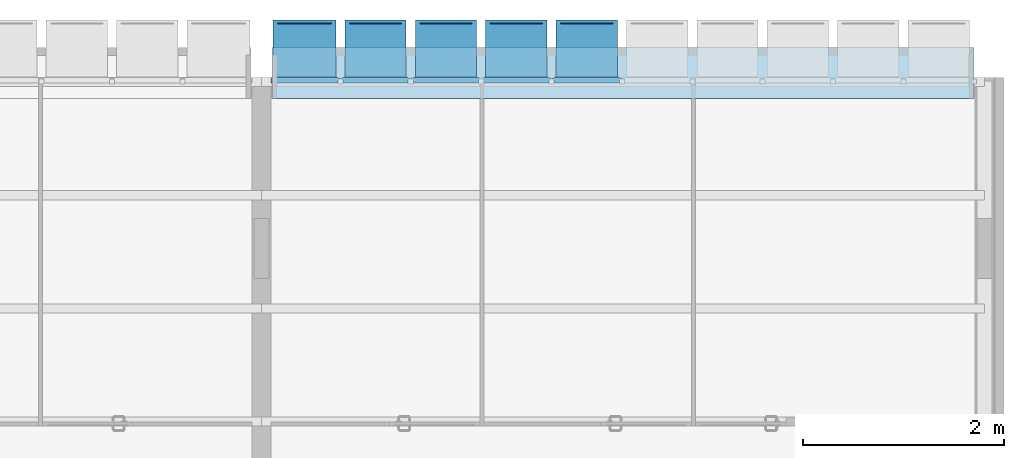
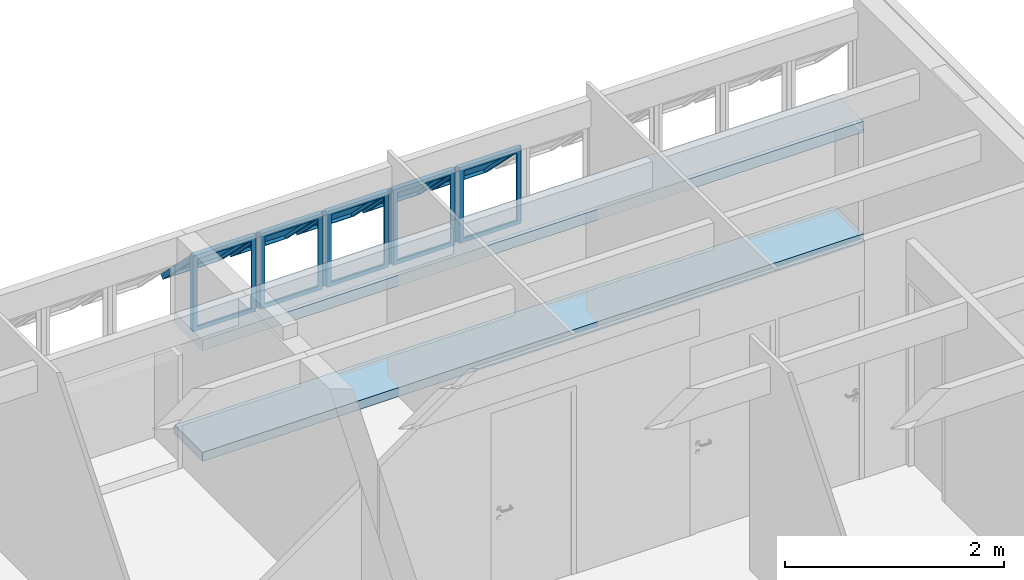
# One storey, part 16 of 41: 5 plates, 2 slabs, 1 element without a shape of its own.
"""IFC4 building model written with IfcOpenShell, lengths in millimetres."""

from ifc_helpers import new_model, entity, si_unit, converted_unit, derived_unit, direction, frame, origin_with_axes, place, context, subcontext, project, spatial, line, indexed_curve, outline, extrude, polygons, source, transform, mapped, material, layer, layer_set, layer_usage, constituent, constituent_set, type_object, element, aggregate, save


model = new_model("IFC4")

# Units and contexts
model_context = context("Model", 3, precision=0.01, world=origin_with_axes(), true_north=direction((0.0, 1.0)))
body_context = subcontext(model_context, "Body", "Model", "MODEL_VIEW")
ifc_project = project(units=[si_unit("LENGTHUNIT", "METRE", prefix="MILLI"), si_unit("AREAUNIT", "SQUARE_METRE"), si_unit("VOLUMEUNIT", "CUBIC_METRE"), converted_unit("PLANEANGLEUNIT", "DEGREE", entity("IfcPlaneAngleMeasure", 0.0174532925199), si_unit("PLANEANGLEUNIT", "RADIAN"), dimensions=[0, 0, 0, 0, 0, 0, 0]), converted_unit("TIMEUNIT", "Year", entity("IfcTimeMeasure", 31556926.0), si_unit("TIMEUNIT", "SECOND"), dimensions=[0, 0, 1, 0, 0, 0, 0]), si_unit("MASSUNIT", "GRAM", prefix="KILO"), si_unit("THERMODYNAMICTEMPERATUREUNIT", "DEGREE_CELSIUS"), si_unit("LUMINOUSINTENSITYUNIT", "LUMEN"), si_unit("ENERGYUNIT", "JOULE", prefix="MEGA"), derived_unit("THERMALCONDUCTANCEUNIT", [(si_unit("POWERUNIT", "WATT"), 1), (si_unit("LENGTHUNIT", "METRE"), -1), (si_unit("THERMODYNAMICTEMPERATUREUNIT", "KELVIN"), -1)]), derived_unit("SPECIFICHEATCAPACITYUNIT", [(si_unit("ENERGYUNIT", "JOULE"), 1), (si_unit("MASSUNIT", "GRAM", prefix="KILO"), -1), (si_unit("THERMODYNAMICTEMPERATUREUNIT", "KELVIN"), -1)]), derived_unit("MASSDENSITYUNIT", [(si_unit("MASSUNIT", "GRAM", prefix="KILO"), 1), (si_unit("VOLUMEUNIT", "CUBIC_METRE"), -1)])], contexts=[model_context])

# Site, building, storey
site_placement = place(None, origin_with_axes())
site = spatial("IfcSite", under=ifc_project, at=site_placement, Name="Local", CompositionType="ELEMENT")
building_placement = place(site_placement, origin_with_axes())
building = spatial("IfcBuilding", under=site, at=building_placement, Name="Construção", CompositionType="ELEMENT")
storey_placement = place(building_placement, frame((0.0, 0.0, 2650.0), z_axis=(0.0, 0.0, 1.0), x_axis=(1.0, 0.0, 0.0)))
storey = spatial("IfcBuildingStorey", under=building, at=storey_placement, Name="Segundo Pavimento", CompositionType="ELEMENT", Elevation=2650.0)

# Slab
ifc_material_1 = material(Name="Concreto Armado Moldado in Loco - Estrutural")
ifc_layer_1 = layer(ifc_material_1, 120.0, ventilated="UNKNOWN", Name="Concreto Armado Moldado in Loco - Estrutural")
ifc_layer_set_1 = layer_set([ifc_layer_1], Name="Concreto Armado Moldado in Loco - Estrutural 120")
ifc_layer_usage_1 = layer_usage(ifc_layer_set_1, "AXIS3", "NEGATIVE", 120.0)
slab_type_1 = type_object("IfcSlabType", Name="Concreto Armado Moldado in Loco - Estrutural 120", PredefinedType="FLOOR")
slab_1_placement = place(storey_placement, frame((14470.0, 26160.0, 1355.0), z_axis=(0.0, 0.0, 1.0), x_axis=(1.0, 0.0, 0.0)))
element("IfcSlab", 1, at=slab_1_placement, inside=storey, type_object=slab_type_1, material=ifc_layer_usage_1, Name="APTO8-LAJE-002", PredefinedType="FLOOR", context=body_context, shape_type="SweptSolid", body=[
    extrude(outline(indexed_curve([(0.0, 0.0), (-6980.0, 0.0), (-6980.0, -510.0), (0.0, -510.0)], segments=[line(1, 2, 3, 4, 1)])), frame((0.0, 0.0, -120.0), z_axis=(0.0, 0.0, 1.0), x_axis=(1.0, 0.0, 0.0)), (0.0, 0.0, 1.0), 120.0),
])

# Window, plates
window_type = type_object("IfcWindowType", Name="Tipo de Parede Cortina", PartitioningType="NOTDEFINED", PredefinedType="NOTDEFINED")
window_placement = place(storey_placement, frame((8520.0, 25844.9790225, 1355.02054151), z_axis=(0.0, 0.0, 1.0), x_axis=(1.0, 0.0, 0.0)))
window = element("IfcWindow", 2, at=window_placement, inside=storey, type_object=window_type, Name="APTO8-JANELA-001", PredefinedType="NOTDEFINED")
ifc_material_2 = material(Name="Alumínio")
ifc_constituent_1 = constituent(ifc_material_2, Name="Alumínio")
ifc_material_3 = material(Name="Vidro")
ifc_constituent_2 = constituent(ifc_material_3, Name="Vidro")
ifc_constituent_set_1 = constituent_set(constituents=[ifc_constituent_1, ifc_constituent_2])
plate_type_1 = type_object("IfcPlateType", Name="Painel Principal 690 x 845 x 20", PredefinedType="CURTAIN_PANEL")
shared_shape_1 = source(origin_with_axes(), body_context, "Body", "Tessellation", [
    polygons([(25.0000036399, 0.0, -40.0), (674.999997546, 0.0, -40.0), (674.999997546, 0.0, -35.0), (25.0000036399, 0.0, -35.0), (70.0000036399, 45.0, -40.0), (629.999997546, 45.0, -40.0), (629.999997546, 45.0, -35.0), (70.0000036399, 45.0, -35.0)], [[[1, 2, 3, 4]], [[1, 5, 6, 2]], [[2, 6, 7, 3]], [[4, 3, 7, 8]], [[5, 1, 4, 8]], [[6, 5, 8, 7]]], closed=True),
    polygons([(674.999997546, 0.0, -40.0), (674.999997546, 844.999891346, -40.0), (674.999997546, 844.999891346, -35.0), (674.999997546, 0.0, -35.0), (629.999997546, 45.0, -40.0), (629.999997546, 799.999891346, -40.0), (629.999997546, 799.999891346, -35.0), (629.999997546, 45.0, -35.0)], [[[1, 2, 3, 4]], [[1, 5, 6, 2]], [[2, 6, 7, 3]], [[4, 3, 7, 8]], [[5, 1, 4, 8]], [[6, 5, 8, 7]]], closed=True),
    polygons([(25.0000036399, 844.999891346, -40.0), (70.0000036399, 799.999891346, -40.0), (70.0000036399, 799.999891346, -35.0), (25.0000036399, 844.999891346, -35.0), (674.999997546, 844.999891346, -40.0), (629.999997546, 799.999891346, -40.0), (629.999997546, 799.999891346, -35.0), (674.999997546, 844.999891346, -35.0)], [[[1, 2, 3, 4]], [[1, 5, 6, 2]], [[2, 6, 7, 3]], [[4, 3, 7, 8]], [[5, 1, 4, 8]], [[6, 5, 8, 7]]], closed=True),
    polygons([(25.0000036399, 0.0, -40.0), (70.0000036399, 45.0, -40.0), (70.0000036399, 45.0, -35.0), (25.0000036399, 0.0, -35.0), (25.0000036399, 844.999891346, -40.0), (70.0000036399, 799.999891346, -40.0), (70.0000036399, 799.999891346, -35.0), (25.0000036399, 844.999891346, -35.0)], [[[1, 2, 3, 4]], [[1, 5, 6, 2]], [[2, 6, 7, 3]], [[4, 3, 7, 8]], [[5, 1, 4, 8]], [[6, 5, 8, 7]]], closed=True),
    polygons([(25.0000036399, 0.0, -35.0), (674.999997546, 0.0, -35.0), (674.999997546, 0.0, 15.0), (25.0000036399, 0.0, 15.0), (45.0000036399, 20.0, -35.0), (654.999997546, 20.0, -35.0), (654.999997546, 20.0, 15.0), (45.0000036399, 20.0, 15.0)], [[[1, 2, 3, 4]], [[1, 5, 6, 2]], [[2, 6, 7, 3]], [[4, 3, 7, 8]], [[5, 1, 4, 8]], [[6, 5, 8, 7]]], closed=True),
    polygons([(674.999997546, 0.0, -35.0), (674.999997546, 844.999891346, -35.0), (674.999997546, 844.999891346, 15.0), (674.999997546, 0.0, 15.0), (654.999997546, 20.0, -35.0), (654.999997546, 824.999891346, -35.0), (654.999997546, 824.999891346, 15.0), (654.999997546, 20.0, 15.0)], [[[1, 2, 3, 4]], [[1, 5, 6, 2]], [[2, 6, 7, 3]], [[4, 3, 7, 8]], [[5, 1, 4, 8]], [[6, 5, 8, 7]]], closed=True),
    polygons([(25.0000036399, 844.999891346, -35.0), (45.0000036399, 824.999891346, -35.0), (45.0000036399, 824.999891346, 15.0), (25.0000036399, 844.999891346, 15.0), (674.999997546, 844.999891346, -35.0), (654.999997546, 824.999891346, -35.0), (654.999997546, 824.999891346, 15.0), (674.999997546, 844.999891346, 15.0)], [[[1, 2, 3, 4]], [[1, 5, 6, 2]], [[2, 6, 7, 3]], [[4, 3, 7, 8]], [[5, 1, 4, 8]], [[6, 5, 8, 7]]], closed=True),
    polygons([(25.0000036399, 0.0, -35.0), (45.0000036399, 20.0, -35.0), (45.0000036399, 20.0, 15.0), (25.0000036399, 0.0, 15.0), (25.0000036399, 844.999891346, -35.0), (45.0000036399, 824.999891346, -35.0), (45.0000036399, 824.999891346, 15.0), (25.0000036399, 844.999891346, 15.0)], [[[1, 2, 3, 4]], [[1, 5, 6, 2]], [[2, 6, 7, 3]], [[4, 3, 7, 8]], [[5, 1, 4, 8]], [[6, 5, 8, 7]]], closed=True),
    polygons([(694.999995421, 0.0, -10.0), (694.999995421, 844.999891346, -10.0), (694.999995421, 844.999891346, 10.0), (694.999995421, 0.0, 10.0), (674.999997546, 0.0, -10.0), (674.999997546, 844.999891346, -10.0), (674.999997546, 844.999891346, 10.0), (674.999997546, 0.0, 10.0)], [[[1, 2, 3, 4]], [[1, 5, 6, 2]], [[2, 6, 7, 3]], [[4, 3, 7, 8]], [[5, 1, 4, 8]], [[6, 5, 8, 7]]], closed=True),
    polygons([(5.00000576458, 844.999891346, -10.0), (5.00000576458, 0.0, -10.0), (5.00000576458, 0.0, 10.0), (5.00000576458, 844.999891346, 10.0), (25.0000036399, 844.999891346, -10.0), (25.0000036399, 0.0, -10.0), (25.0000036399, 0.0, 10.0), (25.0000036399, 844.999891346, 10.0)], [[[1, 2, 3, 4]], [[1, 5, 6, 2]], [[2, 6, 7, 3]], [[4, 3, 7, 8]], [[5, 1, 4, 8]], [[6, 5, 8, 7]]], closed=True),
    polygons([(90.0000036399, 252.243475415, 517.045737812), (90.0000036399, 757.824747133, 11.4644660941), (90.0000036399, 796.715620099, 50.3553390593), (90.0000036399, 291.13434838, 555.936610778), (45.0000036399, 220.423670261, 548.865542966), (45.0000036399, 789.644552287, -20.3553390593), (45.0000036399, 828.535425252, 18.5355339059), (45.0000036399, 259.314543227, 587.756415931)], [[[1, 2, 3, 4]], [[1, 5, 6, 2]], [[2, 6, 7, 3]], [[4, 3, 7, 8]], [[5, 1, 4, 8]], [[6, 5, 8, 7]]], closed=True),
    polygons([(654.999997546, 220.423670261, 548.865542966), (654.999997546, 789.644552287, -20.3553390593), (654.999997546, 828.535425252, 18.5355339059), (654.999997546, 259.314543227, 587.756415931), (609.999997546, 252.243475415, 517.045737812), (609.999997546, 757.824747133, 11.4644660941), (609.999997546, 796.715620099, 50.3553390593), (609.999997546, 291.13434838, 555.936610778)], [[[1, 2, 3, 4]], [[1, 5, 6, 2]], [[2, 6, 7, 3]], [[4, 3, 7, 8]], [[5, 1, 4, 8]], [[6, 5, 8, 7]]], closed=True),
    polygons([(654.999997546, 220.423670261, 548.865542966), (609.999997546, 252.243475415, 517.045737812), (609.999997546, 291.13434838, 555.936610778), (654.999997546, 259.314543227, 587.756415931), (45.0000036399, 220.423670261, 548.865542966), (90.0000036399, 252.243475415, 517.045737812), (90.0000036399, 291.13434838, 555.936610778), (45.0000036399, 259.314543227, 587.756415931)], [[[1, 2, 3, 4]], [[1, 5, 6, 2]], [[2, 6, 7, 3]], [[4, 3, 7, 8]], [[5, 1, 4, 8]], [[6, 5, 8, 7]]], closed=True),
    polygons([(45.0000036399, 789.644552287, -20.3553390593), (90.0000036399, 757.824747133, 11.4644660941), (90.0000036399, 796.715620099, 50.3553390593), (45.0000036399, 828.535425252, 18.5355339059), (654.999997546, 789.644552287, -20.3553390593), (609.999997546, 757.824747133, 11.4644660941), (609.999997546, 796.715620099, 50.3553390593), (654.999997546, 828.535425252, 18.5355339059)], [[[1, 2, 3, 4]], [[1, 5, 6, 2]], [[2, 6, 7, 3]], [[4, 3, 7, 8]], [[5, 1, 4, 8]], [[6, 5, 8, 7]]], closed=True),
    polygons([(90.0000036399, 272.749572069, 537.551834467), (609.999997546, 272.749572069, 537.551834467), (609.999997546, 284.063280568, 548.865542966), (90.0000036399, 284.063280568, 548.865542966), (90.0000036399, 778.330843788, 31.9705627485), (609.999997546, 778.330843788, 31.9705627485), (609.999997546, 789.644552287, 43.2842712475), (90.0000036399, 789.644552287, 43.2842712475)], [[[1, 2, 3, 4]], [[1, 5, 6, 2]], [[2, 6, 7, 3]], [[4, 3, 7, 8]], [[5, 1, 4, 8]], [[6, 5, 8, 7]]], closed=True),
])
plate_1_placement = place(window_placement, frame((0.0, 0.0, 422.499945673), z_axis=(0.0, 0.0, 1.0), x_axis=(1.0, 0.0, 0.0)))
plate_1 = element("IfcPlate", 3, at=plate_1_placement, type_object=plate_type_1, material=ifc_constituent_set_1, Name="APTO8-Painel-Prin-030", PredefinedType="CURTAIN_PANEL", context=body_context, shape_type="MappedRepresentation", body=[
    mapped(shared_shape_1, transform((350.0, 0.0, -422.499945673), x_axis=(-1.0, 0.0, 0.0), y_axis=(0.0, 0.0, 1.0), z_axis=(0.0, 1.0, 0.0))),
])
ifc_constituent_3 = constituent(ifc_material_2, Name="Alumínio")
ifc_constituent_4 = constituent(ifc_material_3, Name="Vidro")
ifc_constituent_set_2 = constituent_set(constituents=[ifc_constituent_3, ifc_constituent_4])
plate_2_placement = place(window_placement, frame((700.0, 0.0, 422.499945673), z_axis=(0.0, 0.0, 1.0), x_axis=(1.0, 0.0, 0.0)))
plate_2 = element("IfcPlate", 4, at=plate_2_placement, type_object=plate_type_1, material=ifc_constituent_set_2, Name="APTO8-Painel-Prin-020", PredefinedType="CURTAIN_PANEL", context=body_context, shape_type="MappedRepresentation", body=[
    mapped(shared_shape_1, transform((350.0, 0.0, -422.499945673), x_axis=(-1.0, 0.0, 0.0), y_axis=(0.0, 0.0, 1.0), z_axis=(0.0, 1.0, 0.0))),
])
ifc_constituent_5 = constituent(ifc_material_2, Name="Alumínio")
ifc_constituent_6 = constituent(ifc_material_3, Name="Vidro")
ifc_constituent_set_3 = constituent_set(constituents=[ifc_constituent_5, ifc_constituent_6])
plate_3_placement = place(window_placement, frame((1400.0, 0.0, 422.499945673), z_axis=(0.0, 0.0, 1.0), x_axis=(1.0, 0.0, 0.0)))
plate_3 = element("IfcPlate", 5, at=plate_3_placement, type_object=plate_type_1, material=ifc_constituent_set_3, Name="APTO8-Painel-Prin-029", PredefinedType="CURTAIN_PANEL", context=body_context, shape_type="MappedRepresentation", body=[
    mapped(shared_shape_1, transform((350.0, 0.0, -422.499945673), x_axis=(-1.0, 0.0, 0.0), y_axis=(0.0, 0.0, 1.0), z_axis=(0.0, 1.0, 0.0))),
])
ifc_constituent_7 = constituent(ifc_material_2, Name="Alumínio")
ifc_constituent_8 = constituent(ifc_material_3, Name="Vidro")
ifc_constituent_set_4 = constituent_set(constituents=[ifc_constituent_7, ifc_constituent_8])
plate_type_2 = type_object("IfcPlateType", Name="Painel Principal 685 x 845 x 20", PredefinedType="CURTAIN_PANEL")
shared_shape_2 = source(origin_with_axes(), body_context, "Body", "Tessellation", [
    polygons([(25.0000046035, 0.0, -40.0), (690.000079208, 0.0, -40.0), (690.000079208, 0.0, -35.0), (25.0000046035, 0.0, -35.0), (70.0000046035, 45.0, -40.0), (645.000079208, 45.0, -40.0), (645.000079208, 45.0, -35.0), (70.0000046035, 45.0, -35.0)], [[[1, 2, 3, 4]], [[1, 5, 6, 2]], [[2, 6, 7, 3]], [[4, 3, 7, 8]], [[5, 1, 4, 8]], [[6, 5, 8, 7]]], closed=True),
    polygons([(690.000079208, 0.0, -40.0), (690.000079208, 844.999923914, -40.0), (690.000079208, 844.999923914, -35.0), (690.000079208, 0.0, -35.0), (645.000079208, 45.0, -40.0), (645.000079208, 799.999923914, -40.0), (645.000079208, 799.999923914, -35.0), (645.000079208, 45.0, -35.0)], [[[1, 2, 3, 4]], [[1, 5, 6, 2]], [[2, 6, 7, 3]], [[4, 3, 7, 8]], [[5, 1, 4, 8]], [[6, 5, 8, 7]]], closed=True),
    polygons([(25.0000046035, 844.999923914, -40.0), (70.0000046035, 799.999923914, -40.0), (70.0000046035, 799.999923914, -35.0), (25.0000046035, 844.999923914, -35.0), (690.000079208, 844.999923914, -40.0), (645.000079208, 799.999923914, -40.0), (645.000079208, 799.999923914, -35.0), (690.000079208, 844.999923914, -35.0)], [[[1, 2, 3, 4]], [[1, 5, 6, 2]], [[2, 6, 7, 3]], [[4, 3, 7, 8]], [[5, 1, 4, 8]], [[6, 5, 8, 7]]], closed=True),
    polygons([(25.0000046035, 0.0, -40.0), (70.0000046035, 45.0, -40.0), (70.0000046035, 45.0, -35.0), (25.0000046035, 0.0, -35.0), (25.0000046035, 844.999923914, -40.0), (70.0000046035, 799.999923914, -40.0), (70.0000046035, 799.999923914, -35.0), (25.0000046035, 844.999923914, -35.0)], [[[1, 2, 3, 4]], [[1, 5, 6, 2]], [[2, 6, 7, 3]], [[4, 3, 7, 8]], [[5, 1, 4, 8]], [[6, 5, 8, 7]]], closed=True),
    polygons([(25.0000046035, 0.0, -35.0), (690.000079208, 0.0, -35.0), (690.000079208, 0.0, 15.0), (25.0000046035, 0.0, 15.0), (45.0000046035, 20.0, -35.0), (670.000079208, 20.0, -35.0), (670.000079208, 20.0, 15.0), (45.0000046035, 20.0, 15.0)], [[[1, 2, 3, 4]], [[1, 5, 6, 2]], [[2, 6, 7, 3]], [[4, 3, 7, 8]], [[5, 1, 4, 8]], [[6, 5, 8, 7]]], closed=True),
    polygons([(690.000079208, 0.0, -35.0), (690.000079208, 844.999923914, -35.0), (690.000079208, 844.999923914, 15.0), (690.000079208, 0.0, 15.0), (670.000079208, 20.0, -35.0), (670.000079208, 824.999923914, -35.0), (670.000079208, 824.999923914, 15.0), (670.000079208, 20.0, 15.0)], [[[1, 2, 3, 4]], [[1, 5, 6, 2]], [[2, 6, 7, 3]], [[4, 3, 7, 8]], [[5, 1, 4, 8]], [[6, 5, 8, 7]]], closed=True),
    polygons([(25.0000046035, 844.999923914, -35.0), (45.0000046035, 824.999923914, -35.0), (45.0000046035, 824.999923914, 15.0), (25.0000046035, 844.999923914, 15.0), (690.000079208, 844.999923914, -35.0), (670.000079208, 824.999923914, -35.0), (670.000079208, 824.999923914, 15.0), (690.000079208, 844.999923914, 15.0)], [[[1, 2, 3, 4]], [[1, 5, 6, 2]], [[2, 6, 7, 3]], [[4, 3, 7, 8]], [[5, 1, 4, 8]], [[6, 5, 8, 7]]], closed=True),
    polygons([(25.0000046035, 0.0, -35.0), (45.0000046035, 20.0, -35.0), (45.0000046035, 20.0, 15.0), (25.0000046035, 0.0, 15.0), (25.0000046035, 844.999923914, -35.0), (45.0000046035, 824.999923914, -35.0), (45.0000046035, 824.999923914, 15.0), (25.0000046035, 844.999923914, 15.0)], [[[1, 2, 3, 4]], [[1, 5, 6, 2]], [[2, 6, 7, 3]], [[4, 3, 7, 8]], [[5, 1, 4, 8]], [[6, 5, 8, 7]]], closed=True),
    polygons([(5.00000595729, 844.999923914, -10.0), (5.00000595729, 0.0, -10.0), (5.00000595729, 0.0, 10.0), (5.00000595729, 844.999923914, 10.0), (25.0000046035, 844.999923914, -10.0), (25.0000046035, 0.0, -10.0), (25.0000046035, 0.0, 10.0), (25.0000046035, 844.999923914, 10.0)], [[[1, 2, 3, 4]], [[1, 5, 6, 2]], [[2, 6, 7, 3]], [[4, 3, 7, 8]], [[5, 1, 4, 8]], [[6, 5, 8, 7]]], closed=True),
    polygons([(90.0000046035, 252.243484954, 517.045760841), (90.0000046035, 757.824779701, 11.4644660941), (90.0000046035, 796.715652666, 50.3553390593), (90.0000046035, 291.134357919, 555.936633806), (45.0000046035, 220.4236798, 548.865565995), (45.0000046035, 789.644584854, -20.3553390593), (45.0000046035, 828.535457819, 18.5355339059), (45.0000046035, 259.314552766, 587.75643896)], [[[1, 2, 3, 4]], [[1, 5, 6, 2]], [[2, 6, 7, 3]], [[4, 3, 7, 8]], [[5, 1, 4, 8]], [[6, 5, 8, 7]]], closed=True),
    polygons([(670.000079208, 220.4236798, 548.865565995), (670.000079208, 789.644584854, -20.3553390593), (670.000079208, 828.535457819, 18.5355339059), (670.000079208, 259.314552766, 587.75643896), (625.000079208, 252.243484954, 517.045760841), (625.000079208, 757.824779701, 11.4644660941), (625.000079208, 796.715652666, 50.3553390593), (625.000079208, 291.134357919, 555.936633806)], [[[1, 2, 3, 4]], [[1, 5, 6, 2]], [[2, 6, 7, 3]], [[4, 3, 7, 8]], [[5, 1, 4, 8]], [[6, 5, 8, 7]]], closed=True),
    polygons([(670.000079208, 220.4236798, 548.865565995), (625.000079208, 252.243484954, 517.045760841), (625.000079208, 291.134357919, 555.936633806), (670.000079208, 259.314552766, 587.75643896), (45.0000046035, 220.4236798, 548.865565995), (90.0000046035, 252.243484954, 517.045760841), (90.0000046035, 291.134357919, 555.936633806), (45.0000046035, 259.314552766, 587.75643896)], [[[1, 2, 3, 4]], [[1, 5, 6, 2]], [[2, 6, 7, 3]], [[4, 3, 7, 8]], [[5, 1, 4, 8]], [[6, 5, 8, 7]]], closed=True),
    polygons([(45.0000046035, 789.644584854, -20.3553390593), (90.0000046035, 757.824779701, 11.4644660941), (90.0000046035, 796.715652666, 50.3553390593), (45.0000046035, 828.535457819, 18.5355339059), (670.000079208, 789.644584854, -20.3553390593), (625.000079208, 757.824779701, 11.4644660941), (625.000079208, 796.715652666, 50.3553390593), (670.000079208, 828.535457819, 18.5355339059)], [[[1, 2, 3, 4]], [[1, 5, 6, 2]], [[2, 6, 7, 3]], [[4, 3, 7, 8]], [[5, 1, 4, 8]], [[6, 5, 8, 7]]], closed=True),
    polygons([(90.0000046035, 272.749581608, 537.551857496), (625.000079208, 272.749581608, 537.551857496), (625.000079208, 284.063290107, 548.865565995), (90.0000046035, 284.063290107, 548.865565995), (90.0000046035, 778.330876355, 31.9705627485), (625.000079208, 778.330876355, 31.9705627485), (625.000079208, 789.644584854, 43.2842712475), (90.0000046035, 789.644584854, 43.2842712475)], [[[1, 2, 3, 4]], [[1, 5, 6, 2]], [[2, 6, 7, 3]], [[4, 3, 7, 8]], [[5, 1, 4, 8]], [[6, 5, 8, 7]]], closed=True),
])
plate_4_placement = place(window_placement, frame((-695.000037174, 0.0, 422.499953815), z_axis=(0.0, 0.0, 1.0), x_axis=(1.0, 0.0, 0.0)))
plate_4 = element("IfcPlate", 6, at=plate_4_placement, type_object=plate_type_2, material=ifc_constituent_set_4, Name="APTO8-Painel-Prin-031", PredefinedType="CURTAIN_PANEL", context=body_context, shape_type="MappedRepresentation", body=[
    mapped(shared_shape_2, transform((345.000037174, 0.0, -422.499953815), x_axis=(-1.0, 0.0, 0.0), y_axis=(0.0, 0.0, 1.0), z_axis=(0.0, 1.0, 0.0))),
])
ifc_constituent_9 = constituent(ifc_material_2, Name="Alumínio")
ifc_constituent_10 = constituent(ifc_material_3, Name="Vidro")
ifc_constituent_set_5 = constituent_set(constituents=[ifc_constituent_9, ifc_constituent_10])
shared_shape_3 = source(origin_with_axes(), body_context, "Body", "Tessellation", [
    polygons([(25.0000036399, 0.0, -40.0), (674.999997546, 0.0, -40.0), (674.999997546, 0.0, -35.0), (25.0000036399, 0.0, -35.0), (70.0000036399, 45.0, -40.0), (629.999997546, 45.0, -40.0), (629.999997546, 45.0, -35.0), (70.0000036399, 45.0, -35.0)], [[[1, 2, 3, 4]], [[1, 5, 6, 2]], [[2, 6, 7, 3]], [[4, 3, 7, 8]], [[5, 1, 4, 8]], [[6, 5, 8, 7]]], closed=True),
    polygons([(674.999997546, 0.0, -40.0), (674.999997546, 844.999891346, -40.0), (674.999997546, 844.999891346, -35.0), (674.999997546, 0.0, -35.0), (629.999997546, 45.0, -40.0), (629.999997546, 799.999891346, -40.0), (629.999997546, 799.999891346, -35.0), (629.999997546, 45.0, -35.0)], [[[1, 2, 3, 4]], [[1, 5, 6, 2]], [[2, 6, 7, 3]], [[4, 3, 7, 8]], [[5, 1, 4, 8]], [[6, 5, 8, 7]]], closed=True),
    polygons([(25.0000036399, 844.999891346, -40.0), (70.0000036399, 799.999891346, -40.0), (70.0000036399, 799.999891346, -35.0), (25.0000036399, 844.999891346, -35.0), (674.999997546, 844.999891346, -40.0), (629.999997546, 799.999891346, -40.0), (629.999997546, 799.999891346, -35.0), (674.999997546, 844.999891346, -35.0)], [[[1, 2, 3, 4]], [[1, 5, 6, 2]], [[2, 6, 7, 3]], [[4, 3, 7, 8]], [[5, 1, 4, 8]], [[6, 5, 8, 7]]], closed=True),
    polygons([(25.0000036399, 0.0, -40.0), (70.0000036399, 45.0, -40.0), (70.0000036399, 45.0, -35.0), (25.0000036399, 0.0, -35.0), (25.0000036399, 844.999891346, -40.0), (70.0000036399, 799.999891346, -40.0), (70.0000036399, 799.999891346, -35.0), (25.0000036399, 844.999891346, -35.0)], [[[1, 2, 3, 4]], [[1, 5, 6, 2]], [[2, 6, 7, 3]], [[4, 3, 7, 8]], [[5, 1, 4, 8]], [[6, 5, 8, 7]]], closed=True),
    polygons([(25.0000036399, 0.0, -35.0), (674.999997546, 0.0, -35.0), (674.999997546, 0.0, 15.0), (25.0000036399, 0.0, 15.0), (45.0000036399, 20.0, -35.0), (654.999997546, 20.0, -35.0), (654.999997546, 20.0, 15.0), (45.0000036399, 20.0, 15.0)], [[[1, 2, 3, 4]], [[1, 5, 6, 2]], [[2, 6, 7, 3]], [[4, 3, 7, 8]], [[5, 1, 4, 8]], [[6, 5, 8, 7]]], closed=True),
    polygons([(674.999997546, 0.0, -35.0), (674.999997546, 844.999891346, -35.0), (674.999997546, 844.999891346, 15.0), (674.999997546, 0.0, 15.0), (654.999997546, 20.0, -35.0), (654.999997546, 824.999891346, -35.0), (654.999997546, 824.999891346, 15.0), (654.999997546, 20.0, 15.0)], [[[1, 2, 3, 4]], [[1, 5, 6, 2]], [[2, 6, 7, 3]], [[4, 3, 7, 8]], [[5, 1, 4, 8]], [[6, 5, 8, 7]]], closed=True),
    polygons([(25.0000036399, 844.999891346, -35.0), (45.0000036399, 824.999891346, -35.0), (45.0000036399, 824.999891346, 15.0), (25.0000036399, 844.999891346, 15.0), (674.999997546, 844.999891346, -35.0), (654.999997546, 824.999891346, -35.0), (654.999997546, 824.999891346, 15.0), (674.999997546, 844.999891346, 15.0)], [[[1, 2, 3, 4]], [[1, 5, 6, 2]], [[2, 6, 7, 3]], [[4, 3, 7, 8]], [[5, 1, 4, 8]], [[6, 5, 8, 7]]], closed=True),
    polygons([(25.0000036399, 0.0, -35.0), (45.0000036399, 20.0, -35.0), (45.0000036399, 20.0, 15.0), (25.0000036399, 0.0, 15.0), (25.0000036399, 844.999891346, -35.0), (45.0000036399, 824.999891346, -35.0), (45.0000036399, 824.999891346, 15.0), (25.0000036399, 844.999891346, 15.0)], [[[1, 2, 3, 4]], [[1, 5, 6, 2]], [[2, 6, 7, 3]], [[4, 3, 7, 8]], [[5, 1, 4, 8]], [[6, 5, 8, 7]]], closed=True),
    polygons([(694.999995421, 0.0, -10.0), (694.999995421, 844.999891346, -10.0), (694.999995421, 844.999891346, 10.0), (694.999995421, 0.0, 10.0), (674.999997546, 0.0, -10.0), (674.999997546, 844.999891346, -10.0), (674.999997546, 844.999891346, 10.0), (674.999997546, 0.0, 10.0)], [[[1, 2, 3, 4]], [[1, 5, 6, 2]], [[2, 6, 7, 3]], [[4, 3, 7, 8]], [[5, 1, 4, 8]], [[6, 5, 8, 7]]], closed=True),
    polygons([(5.00000576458, 844.999891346, -10.0), (5.00000576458, 0.0, -10.0), (5.00000576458, 0.0, 10.0), (5.00000576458, 844.999891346, 10.0), (25.0000036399, 844.999891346, -10.0), (25.0000036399, 0.0, -10.0), (25.0000036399, 0.0, 10.0), (25.0000036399, 844.999891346, 10.0)], [[[1, 2, 3, 4]], [[1, 5, 6, 2]], [[2, 6, 7, 3]], [[4, 3, 7, 8]], [[5, 1, 4, 8]], [[6, 5, 8, 7]]], closed=True),
    polygons([(90.0000036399, 252.243475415, 517.045737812), (90.0000036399, 757.824747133, 11.4644660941), (90.0000036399, 796.715620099, 50.3553390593), (90.0000036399, 291.13434838, 555.936610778), (45.0000036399, 220.423670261, 548.865542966), (45.0000036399, 789.644552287, -20.3553390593), (45.0000036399, 828.535425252, 18.5355339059), (45.0000036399, 259.314543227, 587.756415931)], [[[1, 2, 3, 4]], [[1, 5, 6, 2]], [[2, 6, 7, 3]], [[4, 3, 7, 8]], [[5, 1, 4, 8]], [[6, 5, 8, 7]]], closed=True),
    polygons([(654.999997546, 220.423670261, 548.865542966), (654.999997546, 789.644552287, -20.3553390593), (654.999997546, 828.535425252, 18.5355339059), (654.999997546, 259.314543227, 587.756415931), (609.999997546, 252.243475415, 517.045737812), (609.999997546, 757.824747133, 11.4644660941), (609.999997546, 796.715620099, 50.3553390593), (609.999997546, 291.13434838, 555.936610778)], [[[1, 2, 3, 4]], [[1, 5, 6, 2]], [[2, 6, 7, 3]], [[4, 3, 7, 8]], [[5, 1, 4, 8]], [[6, 5, 8, 7]]], closed=True),
    polygons([(654.999997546, 220.423670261, 548.865542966), (609.999997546, 252.243475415, 517.045737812), (609.999997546, 291.13434838, 555.936610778), (654.999997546, 259.314543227, 587.756415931), (45.0000036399, 220.423670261, 548.865542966), (90.0000036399, 252.243475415, 517.045737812), (90.0000036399, 291.13434838, 555.936610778), (45.0000036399, 259.314543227, 587.756415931)], [[[1, 2, 3, 4]], [[1, 5, 6, 2]], [[2, 6, 7, 3]], [[4, 3, 7, 8]], [[5, 1, 4, 8]], [[6, 5, 8, 7]]], closed=True),
    polygons([(45.0000036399, 789.644552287, -20.3553390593), (90.0000036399, 757.824747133, 11.4644660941), (90.0000036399, 796.715620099, 50.3553390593), (45.0000036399, 828.535425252, 18.5355339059), (654.999997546, 789.644552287, -20.3553390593), (609.999997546, 757.824747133, 11.4644660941), (609.999997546, 796.715620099, 50.3553390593), (654.999997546, 828.535425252, 18.5355339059)], [[[1, 2, 3, 4]], [[1, 5, 6, 2]], [[2, 6, 7, 3]], [[4, 3, 7, 8]], [[5, 1, 4, 8]], [[6, 5, 8, 7]]], closed=True),
    polygons([(90.0000036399, 272.749572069, 537.551834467), (609.999997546, 272.749572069, 537.551834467), (609.999997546, 284.063280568, 548.865542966), (90.0000036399, 284.063280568, 548.865542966), (90.0000036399, 778.330843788, 31.9705627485), (609.999997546, 778.330843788, 31.9705627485), (609.999997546, 789.644552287, 43.2842712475), (90.0000036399, 789.644552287, 43.2842712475)], [[[1, 2, 3, 4]], [[1, 5, 6, 2]], [[2, 6, 7, 3]], [[4, 3, 7, 8]], [[5, 1, 4, 8]], [[6, 5, 8, 7]]], closed=True),
])
plate_5_placement = place(window_placement, frame((2100.0, 0.0, 422.499945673), z_axis=(0.0, 0.0, 1.0), x_axis=(1.0, 0.0, 0.0)))
plate_5 = element("IfcPlate", 7, at=plate_5_placement, type_object=plate_type_1, material=ifc_constituent_set_5, Name="APTO8-Painel-Prin-025", PredefinedType="CURTAIN_PANEL", context=body_context, shape_type="MappedRepresentation", body=[
    mapped(shared_shape_3, transform((350.0, 0.0, -422.499945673), x_axis=(-1.0, 0.0, 0.0), y_axis=(0.0, 0.0, 1.0), z_axis=(0.0, 1.0, 0.0))),
])
aggregate(window, [plate_1, plate_4, plate_5, plate_2, plate_3])

# Slab
ifc_layer_2 = layer(ifc_material_1, 100.0, ventilated="UNKNOWN", Name="Concreto Armado Moldado in Loco - Estrutural")
ifc_layer_set_2 = layer_set([ifc_layer_2], Name="Concreto Armado Moldado in Loco - Estrutural 100")
ifc_layer_usage_2 = layer_usage(ifc_layer_set_2, "AXIS3", "NEGATIVE", 100.0)
slab_type_2 = type_object("IfcSlabType", Name="Concreto Armado Moldado in Loco - Estrutural 100", PredefinedType="FLOOR")
slab_2_placement = place(storey_placement, frame((14470.0, 26160.0, 100.0), z_axis=(0.0, 0.0, 1.0), x_axis=(1.0, 0.0, 0.0)))
element("IfcSlab", 8, at=slab_2_placement, inside=storey, type_object=slab_type_2, material=ifc_layer_usage_2, Name="APTO8-LAJE-001", PredefinedType="FLOOR", context=body_context, shape_type="SweptSolid", body=[
    extrude(outline(indexed_curve([(0.0, 0.0), (-6980.0, 0.0), (-6980.0, -510.0), (0.0, -510.0)], segments=[line(1, 2, 3, 4, 1)])), frame((0.0, 0.0, -100.0), z_axis=(0.0, 0.0, 1.0), x_axis=(1.0, 0.0, 0.0)), (0.0, 0.0, 1.0), 100.0),
])

save(model, "model.ifc")
